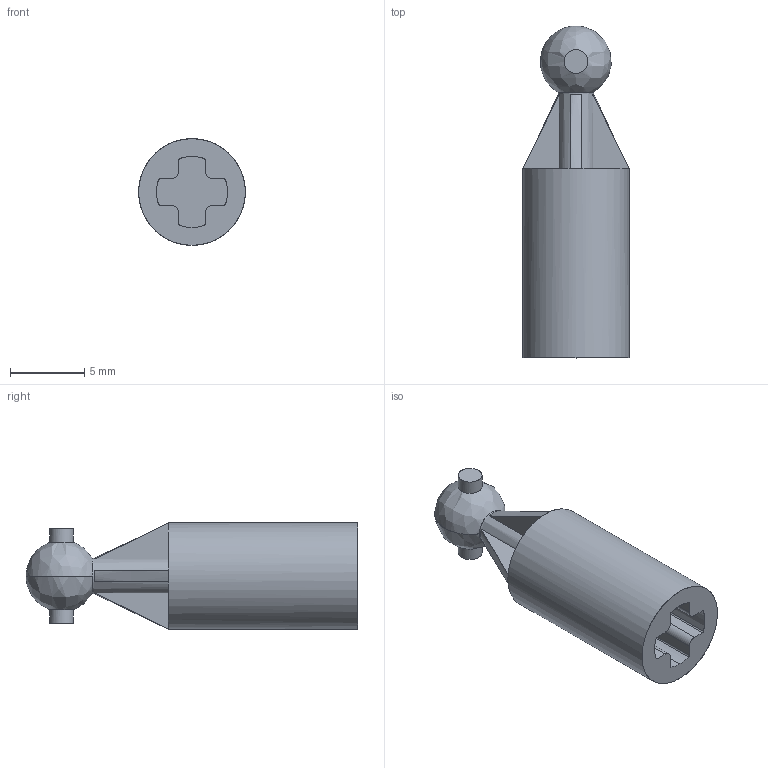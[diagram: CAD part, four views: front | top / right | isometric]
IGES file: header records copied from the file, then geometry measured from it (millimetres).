
Start section: C
Global section: file name: ClGray_4268659_MCM.iges; native system: By Siemens PLM Incorporated; preprocessor: XPlus GENERIC/IGES 26.1.183; author: Author; organization: Title; date: 20250721.235450; units: millimetre
Bounding box: 7.2 x 22.4 x 7.2 mm (x, y, z)
Surface area: 729.4 mm2 (no closed solid volume)
Topology: 0 solids, 0 shells, 51 faces, 273 edges, 272 vertices
Faces by surface type: bspline 51
